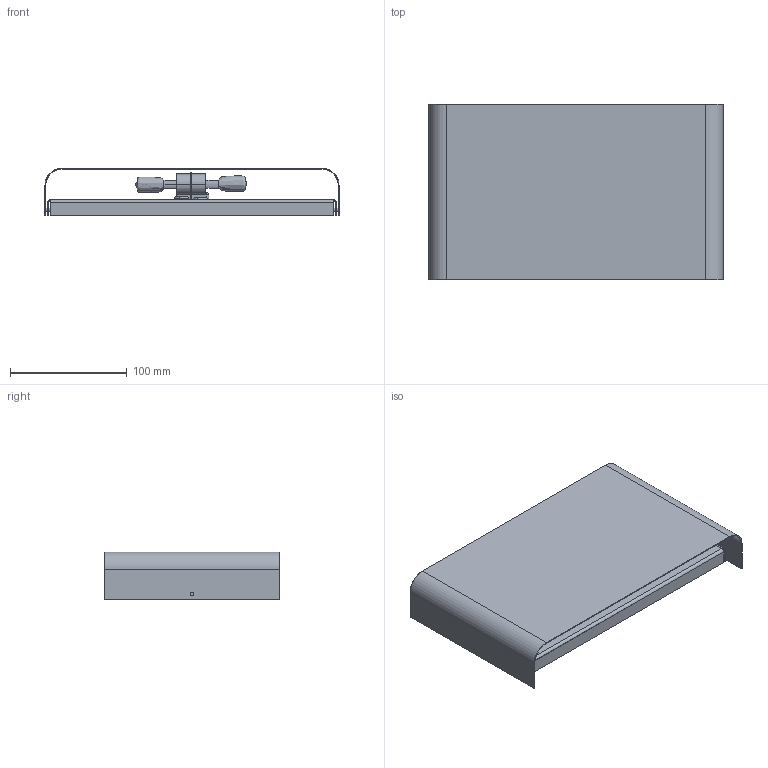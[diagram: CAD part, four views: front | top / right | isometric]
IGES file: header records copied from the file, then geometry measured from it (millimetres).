
Start section: SolidWorks IGES file using analytic representation for surfaces
Global section: file name: E:\....SOLID WORKS\...BORYS\CUBE blachy NOWE\MODELE IGS zlozenia\HAGA.IGS; native system: SolidWorks 2016; preprocessor: SolidWorks 2016; author: DELL; date: 170419.150116; units: millimetre
Bounding box: 251.6 x 150 x 40.8 mm (x, y, z)
Surface area: 185040 mm2 (no closed solid volume)
Topology: 0 solids, 0 shells, 469 faces, 5689 edges, 5675 vertices
Faces by surface type: bspline 244, revolution 225
